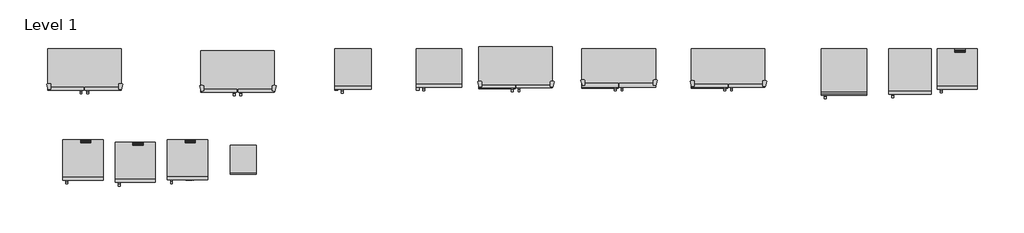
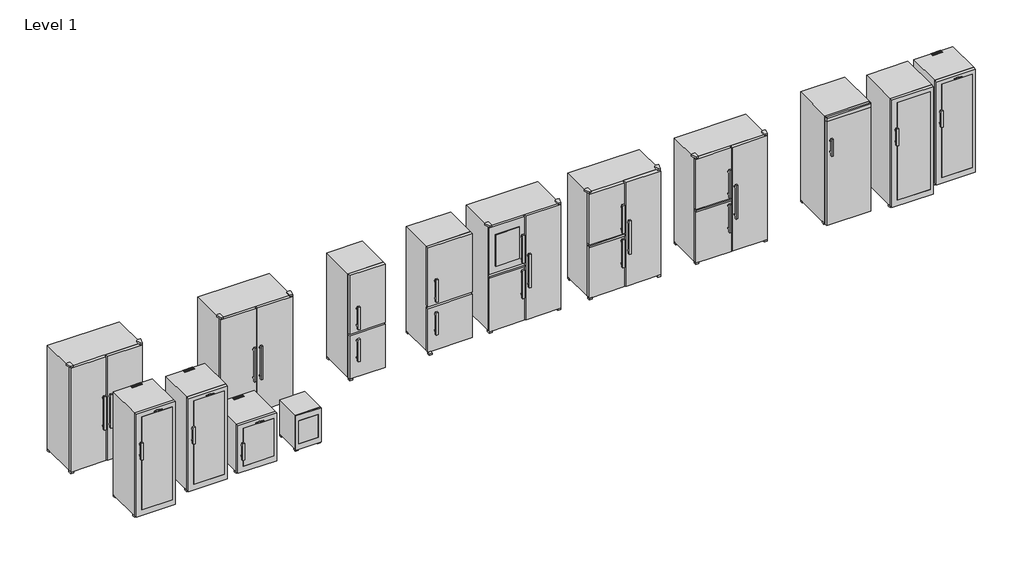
# One storey: 14 proxies.
"""IFC4 building model written with IfcOpenShell, lengths in millimetres."""

from ifc_helpers import new_model, si_unit, origin, place, context, project, spatial, transform, mapped, element, save
from components import specialty_equipment_39511ddc, specialty_equipment_d243509d, specialty_equipment_5408e7d3, specialty_equipment_ab0ed46c, specialty_equipment_bd1fe556, specialty_equipment_3c9227b6, specialty_equipment_b5ad8041, specialty_equipment_f8f7294a, specialty_equipment_4a262d58, specialty_equipment_dc7cb6ab, specialty_equipment_9dc1592e, specialty_equipment_0063b3d1, specialty_equipment_297d572d, specialty_equipment_43d568f8

model = new_model("IFC4")

# Units and contexts
model_context = context("Model", 3, world=origin())
ifc_project = project(units=[si_unit("LENGTHUNIT", "METRE", prefix="MILLI")], contexts=[model_context])

# Site, building, storey
site = spatial("IfcSite", under=ifc_project)
building = spatial("IfcBuilding", under=site)
storey = spatial("IfcBuildingStorey", under=building, Name="Level 1", Elevation=0.0)

# Proxies
placement = place(None, origin())
specialty_equipment_shape = specialty_equipment_39511ddc(model_context)
element("IfcBuildingElementProxy", 1, Name="CNef 4315, CNPef 4516 : CNef 4315", ObjectType="CNef 4315, CNPef 4516 : CNef 4315", at=placement, inside=storey, context=model_context, shape_type="MappedRepresentation", body=[
    mapped(specialty_equipment_shape, transform((4682.702638, 664.5560119, 0.0), x_axis=(1.0, 0.0, 0.0), y_axis=(0.0, 1.0, 0.0), z_axis=(0.0, 0.0, 1.0))),
])
specialty_equipment_2_shape = specialty_equipment_d243509d(model_context)
element("IfcBuildingElementProxy", 2, Name="CNef 4315, CNPef 4516 : CNPef 4516", ObjectType="CNef 4315, CNPef 4516 : CNPef 4516", at=placement, inside=storey, context=model_context, shape_type="MappedRepresentation", body=[
    mapped(specialty_equipment_2_shape, transform((6022.702638, 664.5560119, 0.0), x_axis=(1.0, 0.0, 0.0), y_axis=(0.0, 1.0, 0.0), z_axis=(0.0, 0.0, 1.0))),
])
specialty_equipment_3_shape = specialty_equipment_5408e7d3(model_context)
element("IfcBuildingElementProxy", 3, Name="SBSes 7252, SBef 7242 : SBSes 7252", ObjectType="SBSes 7252, SBef 7242 : SBSes 7252", at=placement, inside=storey, context=model_context, shape_type="MappedRepresentation", body=[
    mapped(specialty_equipment_3_shape, transform((-37.297362, 664.5560119, 0.0), x_axis=(1.0, 0.0, 0.0), y_axis=(0.0, 1.0, 0.0), z_axis=(0.0, 0.0, 1.0))),
])
specialty_equipment_4_shape = specialty_equipment_ab0ed46c(model_context)
element("IfcBuildingElementProxy", 4, Name="SBSes 7252, SBef 7242 : SBSef 7242", ObjectType="SBSes 7252, SBef 7242 : SBSef 7242", at=placement, inside=storey, context=model_context, shape_type="MappedRepresentation", body=[
    mapped(specialty_equipment_4_shape, transform((2482.702638, 634.7214813, 0.0), x_axis=(1.0, 0.0, 0.0), y_axis=(0.0, 1.0, 0.0), z_axis=(0.0, 0.0, 1.0))),
])
specialty_equipment_5_shape = specialty_equipment_bd1fe556(model_context)
element("IfcBuildingElementProxy", 5, Name="SBSbs 7353, SBSes 7353 : SBSbs 7353", ObjectType="SBSbs 7353, SBSes 7353 : SBSbs 7353", at=placement, inside=storey, context=model_context, shape_type="MappedRepresentation", body=[
    mapped(specialty_equipment_5_shape, transform((8750.8752505, 664.5560119, 0.0), x_axis=(1.0, 0.0, 0.0), y_axis=(0.0, 1.0, 0.0), z_axis=(0.0, 0.0, 1.0))),
])
specialty_equipment_6_shape = specialty_equipment_3c9227b6(model_context)
element("IfcBuildingElementProxy", 6, Name="SBSbs 7353, SBSes 7353 : SBSes 7353", ObjectType="SBSbs 7353, SBSes 7353 : SBSes 7353", at=placement, inside=storey, context=model_context, shape_type="MappedRepresentation", body=[
    mapped(specialty_equipment_6_shape, transform((10550.8752505, 664.5560119, 0.0), x_axis=(1.0, 0.0, 0.0), y_axis=(0.0, 1.0, 0.0), z_axis=(0.0, 0.0, 1.0))),
])
specialty_equipment_7_shape = specialty_equipment_b5ad8041(model_context)
element("IfcBuildingElementProxy", 7, Name="WKt 6451 : WKt 6451", ObjectType="WKt 6451 : WKt 6451", at=placement, inside=storey, context=model_context, shape_type="MappedRepresentation", body=[
    mapped(specialty_equipment_7_shape, transform((12685.781919, 664.5560119, -182.0), x_axis=(1.0, 0.0, 0.0), y_axis=(0.0, 1.0, 0.0), z_axis=(0.0, 0.0, 1.0))),
])
specialty_equipment_8_shape = specialty_equipment_f8f7294a(model_context)
element("IfcBuildingElementProxy", 8, Name="WKb : WKb 4611", ObjectType="WKb : WKb 4611", at=placement, inside=storey, context=model_context, shape_type="MappedRepresentation", body=[
    mapped(specialty_equipment_8_shape, transform((215.7088759, -825.5850126, -261.0), x_axis=(1.0, 0.0, 0.0), y_axis=(0.0, 1.0, 0.0), z_axis=(0.0, 0.0, 1.0))),
])
specialty_equipment_9_shape = specialty_equipment_4a262d58(model_context)
element("IfcBuildingElementProxy", 9, Name="ZKes 453_136 : ZKes 453", ObjectType="ZKes 453_136 : ZKes 453", at=placement, inside=storey, context=model_context, shape_type="MappedRepresentation", body=[
    mapped(specialty_equipment_9_shape, transform((2969.5109483, -920.369614, -1313.0), x_axis=(1.0, 0.0, 0.0), y_axis=(0.0, 1.0, 0.0), z_axis=(0.0, 0.0, 1.0))),
])
specialty_equipment_10_shape = specialty_equipment_dc7cb6ab(model_context)
element("IfcBuildingElementProxy", 10, Name="Wkb 1712_049 : WKb 1712", ObjectType="Wkb 1712_049 : WKb 1712", at=placement, inside=storey, context=model_context, shape_type="MappedRepresentation", body=[
    mapped(specialty_equipment_10_shape, transform((1935.7088759, -825.5850126, -1075.0), x_axis=(1.0, 0.0, 0.0), y_axis=(0.0, 1.0, 0.0), z_axis=(0.0, 0.0, 1.0))),
])
specialty_equipment_11_shape = specialty_equipment_9dc1592e(model_context)
element("IfcBuildingElementProxy", 11, Name="Wkb 4112_049 : WKb 4112", ObjectType="Wkb 4112_049 : WKb 4112", at=placement, inside=storey, context=model_context, shape_type="MappedRepresentation", body=[
    mapped(specialty_equipment_11_shape, transform((1075.7088759, -865.5850126, -261.0), x_axis=(1.0, 0.0, 0.0), y_axis=(0.0, 1.0, 0.0), z_axis=(0.0, 0.0, 1.0))),
])
specialty_equipment_12_shape = specialty_equipment_0063b3d1(model_context)
element("IfcBuildingElementProxy", 12, Name="Wkb 4612_049 : WKb 4612", ObjectType="Wkb 4612_049 : WKb 4612", at=placement, inside=storey, context=model_context, shape_type="MappedRepresentation", body=[
    mapped(specialty_equipment_12_shape, transform((14594.9217569, 664.5560119, -261.0), x_axis=(1.0, 0.0, 0.0), y_axis=(0.0, 1.0, 0.0), z_axis=(0.0, 0.0, 1.0))),
])
specialty_equipment_13_shape = specialty_equipment_297d572d(model_context)
element("IfcBuildingElementProxy", 13, Name="WTes 5872_136 : WTes 5872", ObjectType="WTes 5872_136 : WTes 5872", at=placement, inside=storey, context=model_context, shape_type="MappedRepresentation", body=[
    mapped(specialty_equipment_13_shape, transform((13798.557625, 664.5560119, -261.0), x_axis=(1.0, 0.0, 0.0), y_axis=(0.0, 1.0, 0.0), z_axis=(0.0, 0.0, 1.0))),
])
specialty_equipment_14_shape = specialty_equipment_43d568f8(model_context)
element("IfcBuildingElementProxy", 14, Name="SBSes 7165_049 : SBSes 7165", ObjectType="SBSes 7165_049 : SBSes 7165", at=placement, inside=storey, context=model_context, shape_type="MappedRepresentation", body=[
    mapped(specialty_equipment_14_shape, transform((7055.8752505, 704.5560119, 0.0), x_axis=(1.0, 0.0, 0.0), y_axis=(0.0, 1.0, 0.0), z_axis=(0.0, 0.0, 1.0))),
])

save(model, "model.ifc")
